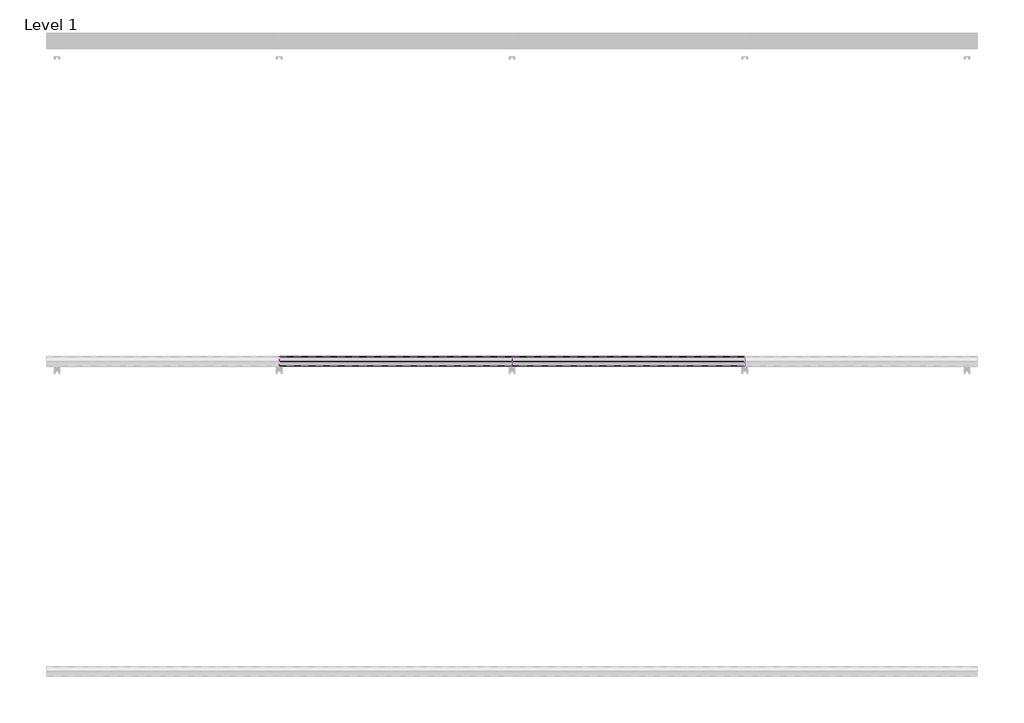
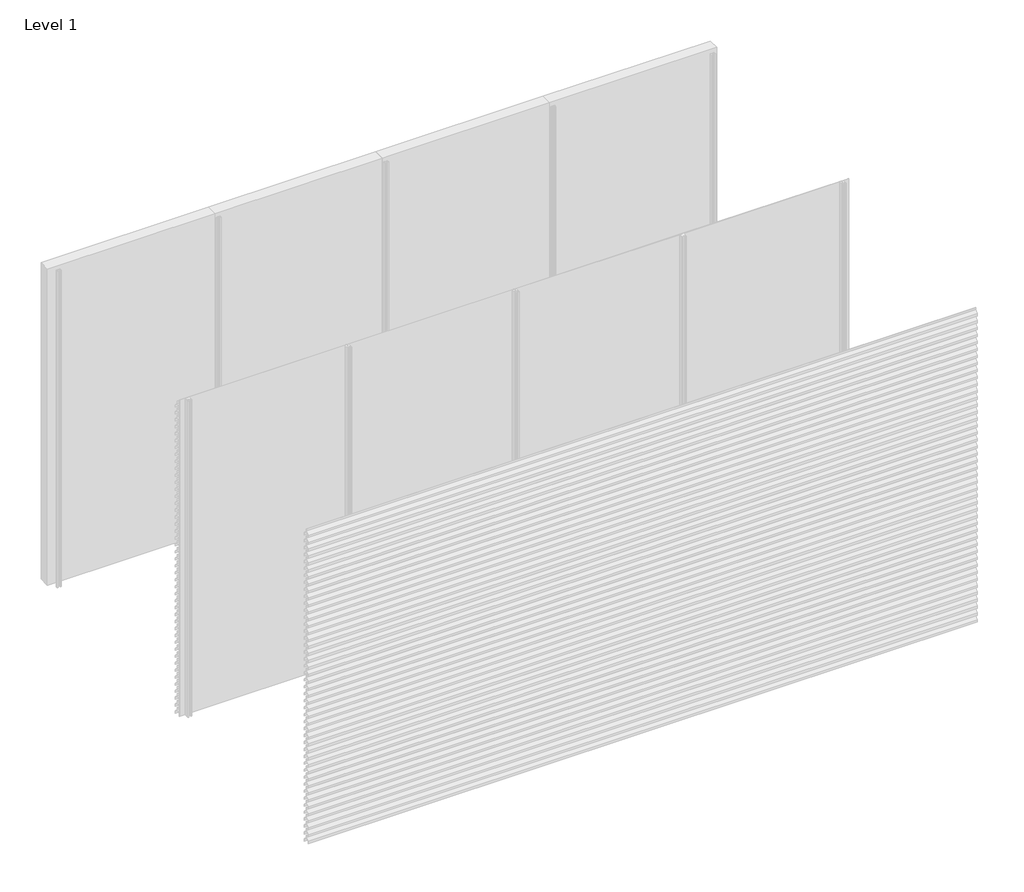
# One storey, part 27 of 35: 69 proxies.
"""IFC4 building model written with IfcOpenShell, lengths in millimetres."""

import ifcopenshell
import ifcopenshell.guid

model = None  # the IFC model being written
_history = None  # IfcOwnerHistory: only IFC2X3 demands one
_inside = {}  # id of a spatial element -> (the spatial element, [elements in it])
_under = {}  # id of a project, library or spatial element -> (it, [spatial elements below it])
_declared = {}  # id of a project -> (the project, [libraries it declares])
_typed = {}  # id of a type object -> (the type object, [elements of that type])
_made_of = {}  # id of a material, layer set ... -> (it, [elements and type objects made of it])


def new_model(schema):
    """Start an empty IFC model of exactly this schema.

    Asked for "IFC4X3", IfcOpenShell would pick the latest addendum, in which some entities
    have other attributes; the version numbers below select the first issue.
    IFC2X3 requires an IfcOwnerHistory on every rooted entity: one is made here for all.
    """
    global model, _history
    if schema == "IFC4X3":
        model = ifcopenshell.file(schema_version=(4, 3, 0, 0))
    else:
        model = ifcopenshell.file(schema=schema)
    _inside.clear()
    _under.clear()
    _declared.clear()
    _typed.clear()
    _made_of.clear()
    _history = None
    if model.schema == "IFC2X3":
        org = make("IfcOrganization", Name="unknown")
        user = make(
            "IfcPersonAndOrganization",
            ThePerson=make("IfcPerson", FamilyName="unknown"),
            TheOrganization=org,
        )
        app = make(
            "IfcApplication",
            ApplicationDeveloper=org,
            Version="unknown",
            ApplicationFullName="unknown",
            ApplicationIdentifier="unknown",
        )
        _history = make(
            "IfcOwnerHistory",
            OwningUser=user,
            OwningApplication=app,
            ChangeAction="ADDED",
            CreationDate=0,
        )
    return model


def make(cls, **values):
    """One entity of the class cls with the attributes given. An attribute that is None is left unset."""
    return model.create_entity(
        cls, **{name: value for name, value in values.items() if value is not None}
    )


def rooted(cls, **values):
    """An entity with a GlobalId (a new one), such as an element, a storey or a relation."""
    return make(cls, GlobalId=ifcopenshell.guid.new(), OwnerHistory=_history, **values)


def si_unit(unit_type, name, prefix=None):
    """IfcSIUnit, for example si_unit("LENGTHUNIT", "METRE", prefix="MILLI")."""
    return make("IfcSIUnit", UnitType=unit_type, Prefix=prefix, Name=name)


def assignment(units):
    """IfcUnitAssignment: the units of a project."""
    return None if units is None else make("IfcUnitAssignment", Units=units)


def point(xyz):
    """IfcCartesianPoint."""
    return None if xyz is None else make("IfcCartesianPoint", Coordinates=xyz)


def direction(xyz):
    """IfcDirection."""
    return None if xyz is None else make("IfcDirection", DirectionRatios=xyz)


def frame(location, z_axis=None, x_axis=None):
    """IfcAxis2Placement3D, a coordinate frame: its origin and axes. An axis left out is left unset."""
    return make(
        "IfcAxis2Placement3D",
        Location=point(location),
        Axis=direction(z_axis),
        RefDirection=direction(x_axis),
    )


def origin():
    """The frame at (0, 0, 0) with its axes left unset."""
    return frame((0.0, 0.0, 0.0))


def place(relative_to, where):
    """IfcLocalPlacement: puts the frame where relative to a parent placement (None: the world)."""
    return make(
        "IfcLocalPlacement", PlacementRelTo=relative_to, RelativePlacement=where
    )


def context(
    kind, dimensions, precision=None, world=None, true_north=None, identifier=None
):
    """IfcGeometricRepresentationContext, for example the 3D "Model" context."""
    return make(
        "IfcGeometricRepresentationContext",
        ContextIdentifier=identifier,
        ContextType=kind,
        CoordinateSpaceDimension=dimensions,
        Precision=precision,
        WorldCoordinateSystem=world,
        TrueNorth=true_north,
    )


def project(units=None, contexts=None):
    """IfcProject with its units and contexts."""
    return rooted(
        "IfcProject",
        Name="project",
        RepresentationContexts=contexts,
        UnitsInContext=assignment(units),
    )


def spatial(cls, under=None, at=None, **own):
    """A site, building, storey or space (cls), placed at a placement, below another one or the project."""
    s = rooted(cls, ObjectPlacement=at, **own)
    if under is not None:
        _under.setdefault(under.id(), (under, []))[1].append(s)
    return s


def polyline(points):
    """IfcPolyline through the points."""
    return make("IfcPolyline", Points=[point(p) for p in points])


def outline(outer, holes=None, kind="AREA"):
    """IfcArbitraryClosedProfileDef: a profile drawn as a closed curve; with holes, ...WithVoids."""
    if holes is None:
        return make("IfcArbitraryClosedProfileDef", ProfileType=kind, OuterCurve=outer)
    return make(
        "IfcArbitraryProfileDefWithVoids",
        ProfileType=kind,
        OuterCurve=outer,
        InnerCurves=holes,
    )


def extrude(swept, where, along, depth):
    """IfcExtrudedAreaSolid: the profile swept, set in the frame where, extruded along a direction by depth."""
    return make(
        "IfcExtrudedAreaSolid",
        SweptArea=swept,
        Position=where,
        ExtrudedDirection=direction(along),
        Depth=depth,
    )


def shape(context_of_items, identifier, shape_type, items):
    """IfcShapeRepresentation: the items that make up one representation, for example the "Body"."""
    return make(
        "IfcShapeRepresentation",
        ContextOfItems=context_of_items,
        RepresentationIdentifier=identifier,
        RepresentationType=shape_type,
        Items=items,
    )


def made_of(thing, what):
    """Note that an element or type object is made of a material, layer set ...; save() writes the relation."""
    if what is not None:
        _made_of.setdefault(what.id(), (what, []))[1].append(thing)
    return thing


def element(
    cls,
    number,
    at=None,
    inside=None,
    cuts=None,
    type_object=None,
    material=None,
    context=None,
    identifier="Body",
    shape_type=None,
    held_by="IfcProductDefinitionShape",
    body=None,
    shapes=None,
    **own,
):
    """One element of the class cls, such as IfcWall. Its Tag is "e" and its number.

    at: its placement. inside: the storey or other place that contains it. cuts: it is an
    opening in that element (IfcRelVoidsElement). A single representation is given by context,
    identifier, shape_type and body (its items); several are given by shapes. held_by: the class
    of the entity that holds the representations. save() writes the other relations.
    """
    e = rooted(cls, Tag="e%d" % number, ObjectPlacement=at, **own)
    if body is not None:
        shapes = [shape(context, identifier, shape_type, body)]
    if shapes is not None:
        e.Representation = make(held_by, Representations=shapes)
    if inside is not None:
        _inside.setdefault(inside.id(), (inside, []))[1].append(e)
    if cuts is not None:
        rooted(
            "IfcRelVoidsElement", RelatingBuildingElement=cuts, RelatedOpeningElement=e
        )
    if type_object is not None:
        _typed.setdefault(type_object.id(), (type_object, []))[1].append(e)
    return made_of(e, material)


def aggregate(whole, parts):
    """IfcRelAggregates: a whole, such as a stair, and the parts it consists of."""
    return rooted("IfcRelAggregates", RelatingObject=whole, RelatedObjects=parts)


def save(model, path):
    """Write the relations noted so far, then the file.

    IfcRelAggregates (storeys below a building ...), IfcRelContainedInSpatialStructure (elements
    in a storey), IfcRelDefinesByType, IfcRelAssociatesMaterial and IfcRelDeclares: one each for
    every whole, place, type object, material and project.
    """
    for whole, parts in _under.values():
        aggregate(whole, parts)
    for where, things in _inside.values():
        rooted(
            "IfcRelContainedInSpatialStructure",
            RelatedElements=things,
            RelatingStructure=where,
        )
    for kind, things in _typed.values():
        rooted("IfcRelDefinesByType", RelatedObjects=things, RelatingType=kind)
    for what, things in _made_of.values():
        rooted("IfcRelAssociatesMaterial", RelatedObjects=things, RelatingMaterial=what)
    for by, libraries in _declared.values():
        rooted("IfcRelDeclares", RelatingContext=by, RelatedDefinitions=libraries)
    model.write(path)


model = new_model("IFC4")

# Units and contexts
model_context = context("Model", 3, world=origin())
ifc_project = project(units=[si_unit("LENGTHUNIT", "METRE", prefix="MILLI")], contexts=[model_context])

# Site, building, storey
site = spatial("IfcSite", under=ifc_project)
building = spatial("IfcBuilding", under=site)
storey = spatial("IfcBuildingStorey", under=building, Name="Level 1", Elevation=0.0)

# Proxies
placement = place(None, origin())
element("IfcBuildingElementProxy", 1, Name="Wall Sweeps", at=placement, inside=storey, context=model_context, shape_type="SweptSolid", body=[
    extrude(outline(polyline([(-11936.0, 2190.0), (-11936.0, 2170.0), (-11937.25, 2170.0), (-11937.25, 2189.4342979), (-11968.1138939, 2222.531772), (-11996.7, 2202.4392868), (-11996.7, 2183.6629874), (-11998.0, 2182.8506572), (-11998.0, 2203.1145472), (-11968.537525, 2223.823011), (-11968.537525, 2244.0), (-11967.1772624, 2244.0), (-11967.1772624, 2223.4335207), (-11936.0, 2190.0)])), frame((1500.0, 0.0, 0.0), z_axis=(1.0, 0.0, 0.0), x_axis=(0.0, 1.0, 0.0)), (0.0, 0.0, 1.0), 1500.0),
])
element("IfcBuildingElementProxy", 2, Name="Wall Sweeps", at=placement, inside=storey, context=model_context, shape_type="SweptSolid", body=[
    extrude(outline(polyline([(-11936.0, 2124.0), (-11936.0, 2104.0), (-11937.25, 2104.0), (-11937.25, 2123.4342979), (-11968.1138939, 2156.531772), (-11996.7, 2136.4392868), (-11996.7, 2117.6629874), (-11998.0, 2116.8506572), (-11998.0, 2137.1145472), (-11968.537525, 2157.823011), (-11968.537525, 2178.0), (-11967.1772624, 2178.0), (-11967.1772624, 2157.4335207), (-11936.0, 2124.0)])), frame((1500.0, 0.0, 0.0), z_axis=(1.0, 0.0, 0.0), x_axis=(0.0, 1.0, 0.0)), (0.0, 0.0, 1.0), 1500.0),
])
element("IfcBuildingElementProxy", 3, Name="Wall Sweeps", at=placement, inside=storey, context=model_context, shape_type="SweptSolid", body=[
    extrude(outline(polyline([(-11936.0, 2058.0), (-11936.0, 2038.0), (-11937.25, 2038.0), (-11937.25, 2057.4342979), (-11968.1138939, 2090.531772), (-11996.7, 2070.4392868), (-11996.7, 2051.6629874), (-11998.0, 2050.8506572), (-11998.0, 2071.1145472), (-11968.537525, 2091.823011), (-11968.537525, 2112.0), (-11967.1772624, 2112.0), (-11967.1772624, 2091.4335207), (-11936.0, 2058.0)])), frame((1500.0, 0.0, 0.0), z_axis=(1.0, 0.0, 0.0), x_axis=(0.0, 1.0, 0.0)), (0.0, 0.0, 1.0), 1500.0),
])
element("IfcBuildingElementProxy", 4, Name="Wall Sweeps", at=placement, inside=storey, context=model_context, shape_type="SweptSolid", body=[
    extrude(outline(polyline([(-11936.0, 1992.0), (-11936.0, 1972.0), (-11937.25, 1972.0), (-11937.25, 1991.4342979), (-11968.1138939, 2024.531772), (-11996.7, 2004.4392868), (-11996.7, 1985.6629874), (-11998.0, 1984.8506572), (-11998.0, 2005.1145472), (-11968.537525, 2025.823011), (-11968.537525, 2046.0), (-11967.1772624, 2046.0), (-11967.1772624, 2025.4335207), (-11936.0, 1992.0)])), frame((1500.0, 0.0, 0.0), z_axis=(1.0, 0.0, 0.0), x_axis=(0.0, 1.0, 0.0)), (0.0, 0.0, 1.0), 1500.0),
])
element("IfcBuildingElementProxy", 5, Name="Wall Sweeps", at=placement, inside=storey, context=model_context, shape_type="SweptSolid", body=[
    extrude(outline(polyline([(-11936.0, 1926.0), (-11936.0, 1906.0), (-11937.25, 1906.0), (-11937.25, 1925.4342979), (-11968.1138939, 1958.531772), (-11996.7, 1938.4392868), (-11996.7, 1919.6629874), (-11998.0, 1918.8506572), (-11998.0, 1939.1145472), (-11968.537525, 1959.823011), (-11968.537525, 1980.0), (-11967.1772624, 1980.0), (-11967.1772624, 1959.4335207), (-11936.0, 1926.0)])), frame((1500.0, 0.0, 0.0), z_axis=(1.0, 0.0, 0.0), x_axis=(0.0, 1.0, 0.0)), (0.0, 0.0, 1.0), 1500.0),
])
element("IfcBuildingElementProxy", 6, Name="Wall Sweeps", at=placement, inside=storey, context=model_context, shape_type="SweptSolid", body=[
    extrude(outline(polyline([(-11936.0, 1860.0), (-11936.0, 1840.0), (-11937.25, 1840.0), (-11937.25, 1859.4342979), (-11968.1138939, 1892.531772), (-11996.7, 1872.4392868), (-11996.7, 1853.6629874), (-11998.0, 1852.8506572), (-11998.0, 1873.1145472), (-11968.537525, 1893.823011), (-11968.537525, 1914.0), (-11967.1772624, 1914.0), (-11967.1772624, 1893.4335207), (-11936.0, 1860.0)])), frame((1500.0, 0.0, 0.0), z_axis=(1.0, 0.0, 0.0), x_axis=(0.0, 1.0, 0.0)), (0.0, 0.0, 1.0), 1500.0),
])
element("IfcBuildingElementProxy", 7, Name="Wall Sweeps", at=placement, inside=storey, context=model_context, shape_type="SweptSolid", body=[
    extrude(outline(polyline([(-11936.0, 1794.0), (-11936.0, 1774.0), (-11937.25, 1774.0), (-11937.25, 1793.4342979), (-11968.1138939, 1826.531772), (-11996.7, 1806.4392868), (-11996.7, 1787.6629874), (-11998.0, 1786.8506572), (-11998.0, 1807.1145472), (-11968.537525, 1827.823011), (-11968.537525, 1848.0), (-11967.1772624, 1848.0), (-11967.1772624, 1827.4335207), (-11936.0, 1794.0)])), frame((1500.0, 0.0, 0.0), z_axis=(1.0, 0.0, 0.0), x_axis=(0.0, 1.0, 0.0)), (0.0, 0.0, 1.0), 1500.0),
])
element("IfcBuildingElementProxy", 8, Name="Wall Sweeps", at=placement, inside=storey, context=model_context, shape_type="SweptSolid", body=[
    extrude(outline(polyline([(-11936.0, 1728.0), (-11936.0, 1708.0), (-11937.25, 1708.0), (-11937.25, 1727.4342979), (-11968.1138939, 1760.531772), (-11996.7, 1740.4392868), (-11996.7, 1721.6629874), (-11998.0, 1720.8506572), (-11998.0, 1741.1145472), (-11968.537525, 1761.823011), (-11968.537525, 1782.0), (-11967.1772624, 1782.0), (-11967.1772624, 1761.4335207), (-11936.0, 1728.0)])), frame((1500.0, 0.0, 0.0), z_axis=(1.0, 0.0, 0.0), x_axis=(0.0, 1.0, 0.0)), (0.0, 0.0, 1.0), 1500.0),
])
element("IfcBuildingElementProxy", 9, Name="Wall Sweeps", at=placement, inside=storey, context=model_context, shape_type="SweptSolid", body=[
    extrude(outline(polyline([(-11936.0, 1662.0), (-11936.0, 1642.0), (-11937.25, 1642.0), (-11937.25, 1661.4342979), (-11968.1138939, 1694.531772), (-11996.7, 1674.4392868), (-11996.7, 1655.6629874), (-11998.0, 1654.8506572), (-11998.0, 1675.1145472), (-11968.537525, 1695.823011), (-11968.537525, 1716.0), (-11967.1772624, 1716.0), (-11967.1772624, 1695.4335207), (-11936.0, 1662.0)])), frame((1500.0, 0.0, 0.0), z_axis=(1.0, 0.0, 0.0), x_axis=(0.0, 1.0, 0.0)), (0.0, 0.0, 1.0), 1500.0),
])
element("IfcBuildingElementProxy", 10, Name="Wall Sweeps", at=placement, inside=storey, context=model_context, shape_type="SweptSolid", body=[
    extrude(outline(polyline([(-11936.0, 1596.0), (-11936.0, 1576.0), (-11937.25, 1576.0), (-11937.25, 1595.4342979), (-11968.1138939, 1628.531772), (-11996.7, 1608.4392868), (-11996.7, 1589.6629874), (-11998.0, 1588.8506572), (-11998.0, 1609.1145472), (-11968.537525, 1629.823011), (-11968.537525, 1650.0), (-11967.1772624, 1650.0), (-11967.1772624, 1629.4335207), (-11936.0, 1596.0)])), frame((1500.0, 0.0, 0.0), z_axis=(1.0, 0.0, 0.0), x_axis=(0.0, 1.0, 0.0)), (0.0, 0.0, 1.0), 1500.0),
])
element("IfcBuildingElementProxy", 11, Name="Wall Sweeps", at=placement, inside=storey, context=model_context, shape_type="SweptSolid", body=[
    extrude(outline(polyline([(-11936.0, 1530.0), (-11936.0, 1510.0), (-11937.25, 1510.0), (-11937.25, 1529.4342979), (-11968.1138939, 1562.531772), (-11996.7, 1542.4392868), (-11996.7, 1523.6629874), (-11998.0, 1522.8506572), (-11998.0, 1543.1145472), (-11968.537525, 1563.823011), (-11968.537525, 1584.0), (-11967.1772624, 1584.0), (-11967.1772624, 1563.4335207), (-11936.0, 1530.0)])), frame((1500.0, 0.0, 0.0), z_axis=(1.0, 0.0, 0.0), x_axis=(0.0, 1.0, 0.0)), (0.0, 0.0, 1.0), 1500.0),
])
element("IfcBuildingElementProxy", 12, Name="Wall Sweeps", at=placement, inside=storey, context=model_context, shape_type="SweptSolid", body=[
    extrude(outline(polyline([(-11936.0, 1464.0), (-11936.0, 1444.0), (-11937.25, 1444.0), (-11937.25, 1463.4342979), (-11968.1138939, 1496.531772), (-11996.7, 1476.4392868), (-11996.7, 1457.6629874), (-11998.0, 1456.8506572), (-11998.0, 1477.1145472), (-11968.537525, 1497.823011), (-11968.537525, 1518.0), (-11967.1772624, 1518.0), (-11967.1772624, 1497.4335207), (-11936.0, 1464.0)])), frame((1500.0, 0.0, 0.0), z_axis=(1.0, 0.0, 0.0), x_axis=(0.0, 1.0, 0.0)), (0.0, 0.0, 1.0), 1500.0),
])
element("IfcBuildingElementProxy", 13, Name="Wall Sweeps", at=placement, inside=storey, context=model_context, shape_type="SweptSolid", body=[
    extrude(outline(polyline([(-11936.0, 1398.0), (-11936.0, 1378.0), (-11937.25, 1378.0), (-11937.25, 1397.4342979), (-11968.1138939, 1430.531772), (-11996.7, 1410.4392868), (-11996.7, 1391.6629874), (-11998.0, 1390.8506572), (-11998.0, 1411.1145472), (-11968.537525, 1431.823011), (-11968.537525, 1452.0), (-11967.1772624, 1452.0), (-11967.1772624, 1431.4335207), (-11936.0, 1398.0)])), frame((1500.0, 0.0, 0.0), z_axis=(1.0, 0.0, 0.0), x_axis=(0.0, 1.0, 0.0)), (0.0, 0.0, 1.0), 1500.0),
])
element("IfcBuildingElementProxy", 14, Name="Wall Sweeps", at=placement, inside=storey, context=model_context, shape_type="SweptSolid", body=[
    extrude(outline(polyline([(-11936.0, 1332.0), (-11936.0, 1312.0), (-11937.25, 1312.0), (-11937.25, 1331.4342979), (-11968.1138939, 1364.531772), (-11996.7, 1344.4392868), (-11996.7, 1325.6629874), (-11998.0, 1324.8506572), (-11998.0, 1345.1145472), (-11968.537525, 1365.823011), (-11968.537525, 1386.0), (-11967.1772624, 1386.0), (-11967.1772624, 1365.4335207), (-11936.0, 1332.0)])), frame((1500.0, 0.0, 0.0), z_axis=(1.0, 0.0, 0.0), x_axis=(0.0, 1.0, 0.0)), (0.0, 0.0, 1.0), 1500.0),
])
element("IfcBuildingElementProxy", 15, Name="Wall Sweeps", at=placement, inside=storey, context=model_context, shape_type="SweptSolid", body=[
    extrude(outline(polyline([(-11936.0, 1266.0), (-11936.0, 1246.0), (-11937.25, 1246.0), (-11937.25, 1265.4342979), (-11968.1138939, 1298.531772), (-11996.7, 1278.4392868), (-11996.7, 1259.6629874), (-11998.0, 1258.8506572), (-11998.0, 1279.1145472), (-11968.537525, 1299.823011), (-11968.537525, 1320.0), (-11967.1772624, 1320.0), (-11967.1772624, 1299.4335207), (-11936.0, 1266.0)])), frame((1500.0, 0.0, 0.0), z_axis=(1.0, 0.0, 0.0), x_axis=(0.0, 1.0, 0.0)), (0.0, 0.0, 1.0), 1500.0),
])
element("IfcBuildingElementProxy", 16, Name="Wall Sweeps", at=placement, inside=storey, context=model_context, shape_type="SweptSolid", body=[
    extrude(outline(polyline([(-11936.0, 1200.0), (-11936.0, 1180.0), (-11937.25, 1180.0), (-11937.25, 1199.4342979), (-11968.1138939, 1232.531772), (-11996.7, 1212.4392868), (-11996.7, 1193.6629874), (-11998.0, 1192.8506572), (-11998.0, 1213.1145472), (-11968.537525, 1233.823011), (-11968.537525, 1254.0), (-11967.1772624, 1254.0), (-11967.1772624, 1233.4335207), (-11936.0, 1200.0)])), frame((1500.0, 0.0, 0.0), z_axis=(1.0, 0.0, 0.0), x_axis=(0.0, 1.0, 0.0)), (0.0, 0.0, 1.0), 1500.0),
])
element("IfcBuildingElementProxy", 17, Name="Wall Sweeps", at=placement, inside=storey, context=model_context, shape_type="SweptSolid", body=[
    extrude(outline(polyline([(-11936.0, 1134.0), (-11936.0, 1114.0), (-11937.25, 1114.0), (-11937.25, 1133.4342979), (-11968.1138939, 1166.531772), (-11996.7, 1146.4392868), (-11996.7, 1127.6629874), (-11998.0, 1126.8506572), (-11998.0, 1147.1145472), (-11968.537525, 1167.823011), (-11968.537525, 1188.0), (-11967.1772624, 1188.0), (-11967.1772624, 1167.4335207), (-11936.0, 1134.0)])), frame((1500.0, 0.0, 0.0), z_axis=(1.0, 0.0, 0.0), x_axis=(0.0, 1.0, 0.0)), (0.0, 0.0, 1.0), 1500.0),
])
element("IfcBuildingElementProxy", 18, Name="Wall Sweeps", at=placement, inside=storey, context=model_context, shape_type="SweptSolid", body=[
    extrude(outline(polyline([(-11936.0, 1068.0), (-11936.0, 1048.0), (-11937.25, 1048.0), (-11937.25, 1067.4342979), (-11968.1138939, 1100.531772), (-11996.7, 1080.4392868), (-11996.7, 1061.6629874), (-11998.0, 1060.8506572), (-11998.0, 1081.1145472), (-11968.537525, 1101.823011), (-11968.537525, 1122.0), (-11967.1772624, 1122.0), (-11967.1772624, 1101.4335207), (-11936.0, 1068.0)])), frame((1500.0, 0.0, 0.0), z_axis=(1.0, 0.0, 0.0), x_axis=(0.0, 1.0, 0.0)), (0.0, 0.0, 1.0), 1500.0),
])
element("IfcBuildingElementProxy", 19, Name="Wall Sweeps", at=placement, inside=storey, context=model_context, shape_type="SweptSolid", body=[
    extrude(outline(polyline([(-11936.0, 1002.0), (-11936.0, 982.0), (-11937.25, 982.0), (-11937.25, 1001.4342979), (-11968.1138939, 1034.531772), (-11996.7, 1014.4392868), (-11996.7, 995.6629874), (-11998.0, 994.8506572), (-11998.0, 1015.1145472), (-11968.537525, 1035.823011), (-11968.537525, 1056.0), (-11967.1772624, 1056.0), (-11967.1772624, 1035.4335207), (-11936.0, 1002.0)])), frame((1500.0, 0.0, 0.0), z_axis=(1.0, 0.0, 0.0), x_axis=(0.0, 1.0, 0.0)), (0.0, 0.0, 1.0), 1500.0),
])
element("IfcBuildingElementProxy", 20, Name="Wall Sweeps", at=placement, inside=storey, context=model_context, shape_type="SweptSolid", body=[
    extrude(outline(polyline([(-11936.0, 936.0), (-11936.0, 916.0), (-11937.25, 916.0), (-11937.25, 935.4342979), (-11968.1138939, 968.531772), (-11996.7, 948.4392868), (-11996.7, 929.6629874), (-11998.0, 928.8506572), (-11998.0, 949.1145472), (-11968.537525, 969.823011), (-11968.537525, 990.0), (-11967.1772624, 990.0), (-11967.1772624, 969.4335207), (-11936.0, 936.0)])), frame((1500.0, 0.0, 0.0), z_axis=(1.0, 0.0, 0.0), x_axis=(0.0, 1.0, 0.0)), (0.0, 0.0, 1.0), 1500.0),
])
element("IfcBuildingElementProxy", 21, Name="Wall Sweeps", at=placement, inside=storey, context=model_context, shape_type="SweptSolid", body=[
    extrude(outline(polyline([(-11936.0, 870.0), (-11936.0, 850.0), (-11937.25, 850.0), (-11937.25, 869.4342979), (-11968.1138939, 902.531772), (-11996.7, 882.4392868), (-11996.7, 863.6629874), (-11998.0, 862.8506572), (-11998.0, 883.1145472), (-11968.537525, 903.823011), (-11968.537525, 924.0), (-11967.1772624, 924.0), (-11967.1772624, 903.4335207), (-11936.0, 870.0)])), frame((1500.0, 0.0, 0.0), z_axis=(1.0, 0.0, 0.0), x_axis=(0.0, 1.0, 0.0)), (0.0, 0.0, 1.0), 1500.0),
])
element("IfcBuildingElementProxy", 22, Name="Wall Sweeps", at=placement, inside=storey, context=model_context, shape_type="SweptSolid", body=[
    extrude(outline(polyline([(-11936.0, 804.0), (-11936.0, 784.0), (-11937.25, 784.0), (-11937.25, 803.4342979), (-11968.1138939, 836.531772), (-11996.7, 816.4392868), (-11996.7, 797.6629874), (-11998.0, 796.8506572), (-11998.0, 817.1145472), (-11968.537525, 837.823011), (-11968.537525, 858.0), (-11967.1772624, 858.0), (-11967.1772624, 837.4335207), (-11936.0, 804.0)])), frame((1500.0, 0.0, 0.0), z_axis=(1.0, 0.0, 0.0), x_axis=(0.0, 1.0, 0.0)), (0.0, 0.0, 1.0), 1500.0),
])
element("IfcBuildingElementProxy", 23, Name="Wall Sweeps", at=placement, inside=storey, context=model_context, shape_type="SweptSolid", body=[
    extrude(outline(polyline([(-11936.0, 738.0), (-11936.0, 718.0), (-11937.25, 718.0), (-11937.25, 737.4342979), (-11968.1138939, 770.531772), (-11996.7, 750.4392868), (-11996.7, 731.6629874), (-11998.0, 730.8506572), (-11998.0, 751.1145472), (-11968.537525, 771.823011), (-11968.537525, 792.0), (-11967.1772624, 792.0), (-11967.1772624, 771.4335207), (-11936.0, 738.0)])), frame((1500.0, 0.0, 0.0), z_axis=(1.0, 0.0, 0.0), x_axis=(0.0, 1.0, 0.0)), (0.0, 0.0, 1.0), 1500.0),
])
element("IfcBuildingElementProxy", 24, Name="Wall Sweeps", at=placement, inside=storey, context=model_context, shape_type="SweptSolid", body=[
    extrude(outline(polyline([(-11936.0, 672.0), (-11936.0, 652.0), (-11937.25, 652.0), (-11937.25, 671.4342979), (-11968.1138939, 704.531772), (-11996.7, 684.4392868), (-11996.7, 665.6629874), (-11998.0, 664.8506572), (-11998.0, 685.1145472), (-11968.537525, 705.823011), (-11968.537525, 726.0), (-11967.1772624, 726.0), (-11967.1772624, 705.4335207), (-11936.0, 672.0)])), frame((1500.0, 0.0, 0.0), z_axis=(1.0, 0.0, 0.0), x_axis=(0.0, 1.0, 0.0)), (0.0, 0.0, 1.0), 1500.0),
])
element("IfcBuildingElementProxy", 25, Name="Wall Sweeps", at=placement, inside=storey, context=model_context, shape_type="SweptSolid", body=[
    extrude(outline(polyline([(-11936.0, 606.0), (-11936.0, 586.0), (-11937.25, 586.0), (-11937.25, 605.4342979), (-11968.1138939, 638.531772), (-11996.7, 618.4392868), (-11996.7, 599.6629874), (-11998.0, 598.8506572), (-11998.0, 619.1145472), (-11968.537525, 639.823011), (-11968.537525, 660.0), (-11967.1772624, 660.0), (-11967.1772624, 639.4335207), (-11936.0, 606.0)])), frame((1500.0, 0.0, 0.0), z_axis=(1.0, 0.0, 0.0), x_axis=(0.0, 1.0, 0.0)), (0.0, 0.0, 1.0), 1500.0),
])
element("IfcBuildingElementProxy", 26, Name="Wall Sweeps", at=placement, inside=storey, context=model_context, shape_type="SweptSolid", body=[
    extrude(outline(polyline([(-11936.0, 540.0), (-11936.0, 520.0), (-11937.25, 520.0), (-11937.25, 539.4342979), (-11968.1138939, 572.531772), (-11996.7, 552.4392868), (-11996.7, 533.6629874), (-11998.0, 532.8506572), (-11998.0, 553.1145472), (-11968.537525, 573.823011), (-11968.537525, 594.0), (-11967.1772624, 594.0), (-11967.1772624, 573.4335207), (-11936.0, 540.0)])), frame((1500.0, 0.0, 0.0), z_axis=(1.0, 0.0, 0.0), x_axis=(0.0, 1.0, 0.0)), (0.0, 0.0, 1.0), 1500.0),
])
element("IfcBuildingElementProxy", 27, Name="Wall Sweeps", at=placement, inside=storey, context=model_context, shape_type="SweptSolid", body=[
    extrude(outline(polyline([(-11936.0, 474.0), (-11936.0, 454.0), (-11937.25, 454.0), (-11937.25, 473.4342979), (-11968.1138939, 506.531772), (-11996.7, 486.4392868), (-11996.7, 467.6629874), (-11998.0, 466.8506572), (-11998.0, 487.1145472), (-11968.537525, 507.823011), (-11968.537525, 528.0), (-11967.1772624, 528.0), (-11967.1772624, 507.4335207), (-11936.0, 474.0)])), frame((1500.0, 0.0, 0.0), z_axis=(1.0, 0.0, 0.0), x_axis=(0.0, 1.0, 0.0)), (0.0, 0.0, 1.0), 1500.0),
])
element("IfcBuildingElementProxy", 28, Name="Wall Sweeps", at=placement, inside=storey, context=model_context, shape_type="SweptSolid", body=[
    extrude(outline(polyline([(-11936.0, 408.0), (-11936.0, 388.0), (-11937.25, 388.0), (-11937.25, 407.4342979), (-11968.1138939, 440.531772), (-11996.7, 420.4392868), (-11996.7, 401.6629874), (-11998.0, 400.8506572), (-11998.0, 421.1145472), (-11968.537525, 441.823011), (-11968.537525, 462.0), (-11967.1772624, 462.0), (-11967.1772624, 441.4335207), (-11936.0, 408.0)])), frame((1500.0, 0.0, 0.0), z_axis=(1.0, 0.0, 0.0), x_axis=(0.0, 1.0, 0.0)), (0.0, 0.0, 1.0), 1500.0),
])
element("IfcBuildingElementProxy", 29, Name="Wall Sweeps", at=placement, inside=storey, context=model_context, shape_type="SweptSolid", body=[
    extrude(outline(polyline([(-11936.0, 342.0), (-11936.0, 322.0), (-11937.25, 322.0), (-11937.25, 341.4342979), (-11968.1138939, 374.531772), (-11996.7, 354.4392868), (-11996.7, 335.6629874), (-11998.0, 334.8506572), (-11998.0, 355.1145472), (-11968.537525, 375.823011), (-11968.537525, 396.0), (-11967.1772624, 396.0), (-11967.1772624, 375.4335207), (-11936.0, 342.0)])), frame((1500.0, 0.0, 0.0), z_axis=(1.0, 0.0, 0.0), x_axis=(0.0, 1.0, 0.0)), (0.0, 0.0, 1.0), 1500.0),
])
element("IfcBuildingElementProxy", 30, Name="Wall Sweeps", at=placement, inside=storey, context=model_context, shape_type="SweptSolid", body=[
    extrude(outline(polyline([(-11936.0, 276.0), (-11936.0, 256.0), (-11937.25, 256.0), (-11937.25, 275.4342979), (-11968.1138939, 308.531772), (-11996.7, 288.4392868), (-11996.7, 269.6629874), (-11998.0, 268.8506572), (-11998.0, 289.1145472), (-11968.537525, 309.823011), (-11968.537525, 330.0), (-11967.1772624, 330.0), (-11967.1772624, 309.4335207), (-11936.0, 276.0)])), frame((1500.0, 0.0, 0.0), z_axis=(1.0, 0.0, 0.0), x_axis=(0.0, 1.0, 0.0)), (0.0, 0.0, 1.0), 1500.0),
])
element("IfcBuildingElementProxy", 31, Name="Wall Sweeps", at=placement, inside=storey, context=model_context, shape_type="SweptSolid", body=[
    extrude(outline(polyline([(-11936.0, 210.0), (-11936.0, 190.0), (-11937.25, 190.0), (-11937.25, 209.4342979), (-11968.1138939, 242.531772), (-11996.7, 222.4392868), (-11996.7, 203.6629874), (-11998.0, 202.8506572), (-11998.0, 223.1145472), (-11968.537525, 243.823011), (-11968.537525, 264.0), (-11967.1772624, 264.0), (-11967.1772624, 243.4335207), (-11936.0, 210.0)])), frame((1500.0, 0.0, 0.0), z_axis=(1.0, 0.0, 0.0), x_axis=(0.0, 1.0, 0.0)), (0.0, 0.0, 1.0), 1500.0),
])
element("IfcBuildingElementProxy", 32, Name="Wall Sweeps", at=placement, inside=storey, context=model_context, shape_type="SweptSolid", body=[
    extrude(outline(polyline([(-11936.0, 144.0), (-11936.0, 124.0), (-11937.25, 124.0), (-11937.25, 143.4342979), (-11968.1138939, 176.531772), (-11996.7, 156.4392868), (-11996.7, 137.6629874), (-11998.0, 136.8506572), (-11998.0, 157.1145472), (-11968.537525, 177.823011), (-11968.537525, 198.0), (-11967.1772624, 198.0), (-11967.1772624, 177.4335207), (-11936.0, 144.0)])), frame((1500.0, 0.0, 0.0), z_axis=(1.0, 0.0, 0.0), x_axis=(0.0, 1.0, 0.0)), (0.0, 0.0, 1.0), 1500.0),
])
element("IfcBuildingElementProxy", 33, Name="Wall Sweeps", at=placement, inside=storey, context=model_context, shape_type="SweptSolid", body=[
    extrude(outline(polyline([(-11936.0, 78.0), (-11936.0, 58.0), (-11937.25, 58.0), (-11937.25, 77.4342979), (-11968.1138939, 110.531772), (-11996.7, 90.4392868), (-11996.7, 71.6629874), (-11998.0, 70.8506572), (-11998.0, 91.1145472), (-11968.537525, 111.823011), (-11968.537525, 132.0), (-11967.1772624, 132.0), (-11967.1772624, 111.4335207), (-11936.0, 78.0)])), frame((1500.0, 0.0, 0.0), z_axis=(1.0, 0.0, 0.0), x_axis=(0.0, 1.0, 0.0)), (0.0, 0.0, 1.0), 1500.0),
])
element("IfcBuildingElementProxy", 34, Name="Wall Sweeps", at=placement, inside=storey, context=model_context, shape_type="SweptSolid", body=[
    extrude(outline(polyline([(-11936.0, 12.0), (-11936.0, -8.0), (-11937.25, -8.0), (-11937.25, 11.4342979), (-11968.1138939, 44.531772), (-11996.7, 24.4392868), (-11996.7, 5.6629874), (-11998.0, 4.8506572), (-11998.0, 25.1145472), (-11968.537525, 45.823011), (-11968.537525, 66.0), (-11967.1772624, 66.0), (-11967.1772624, 45.4335207), (-11936.0, 12.0)])), frame((1500.0, 0.0, 0.0), z_axis=(1.0, 0.0, 0.0), x_axis=(0.0, 1.0, 0.0)), (0.0, 0.0, 1.0), 1500.0),
])
element("IfcBuildingElementProxy", 35, Name="Wall Sweeps", at=placement, inside=storey, context=model_context, shape_type="SweptSolid", body=[
    extrude(outline(polyline([(-11936.0, 2916.0), (-11936.0, 2896.0), (-11937.25, 2896.0), (-11937.25, 2915.4342979), (-11968.1138939, 2948.531772), (-11996.7, 2928.4392868), (-11996.7, 2909.6629874), (-11998.0, 2908.8506572), (-11998.0, 2929.1145472), (-11968.537525, 2949.823011), (-11968.537525, 2970.0), (-11967.1772624, 2970.0), (-11967.1772624, 2949.4335207), (-11936.0, 2916.0)])), frame((3000.0, 0.0, 0.0), z_axis=(1.0, 0.0, 0.0), x_axis=(0.0, 1.0, 0.0)), (0.0, 0.0, 1.0), 1500.0),
])
element("IfcBuildingElementProxy", 36, Name="Wall Sweeps", at=placement, inside=storey, context=model_context, shape_type="SweptSolid", body=[
    extrude(outline(polyline([(-11936.0, 2850.0), (-11936.0, 2830.0), (-11937.25, 2830.0), (-11937.25, 2849.4342979), (-11968.1138939, 2882.531772), (-11996.7, 2862.4392868), (-11996.7, 2843.6629874), (-11998.0, 2842.8506572), (-11998.0, 2863.1145472), (-11968.537525, 2883.823011), (-11968.537525, 2904.0), (-11967.1772624, 2904.0), (-11967.1772624, 2883.4335207), (-11936.0, 2850.0)])), frame((3000.0, 0.0, 0.0), z_axis=(1.0, 0.0, 0.0), x_axis=(0.0, 1.0, 0.0)), (0.0, 0.0, 1.0), 1500.0),
])
element("IfcBuildingElementProxy", 37, Name="Wall Sweeps", at=placement, inside=storey, context=model_context, shape_type="SweptSolid", body=[
    extrude(outline(polyline([(-11936.0, 2784.0), (-11936.0, 2764.0), (-11937.25, 2764.0), (-11937.25, 2783.4342979), (-11968.1138939, 2816.531772), (-11996.7, 2796.4392868), (-11996.7, 2777.6629874), (-11998.0, 2776.8506572), (-11998.0, 2797.1145472), (-11968.537525, 2817.823011), (-11968.537525, 2838.0), (-11967.1772624, 2838.0), (-11967.1772624, 2817.4335207), (-11936.0, 2784.0)])), frame((3000.0, 0.0, 0.0), z_axis=(1.0, 0.0, 0.0), x_axis=(0.0, 1.0, 0.0)), (0.0, 0.0, 1.0), 1500.0),
])
element("IfcBuildingElementProxy", 38, Name="Wall Sweeps", at=placement, inside=storey, context=model_context, shape_type="SweptSolid", body=[
    extrude(outline(polyline([(-11936.0, 2718.0), (-11936.0, 2698.0), (-11937.25, 2698.0), (-11937.25, 2717.4342979), (-11968.1138939, 2750.531772), (-11996.7, 2730.4392868), (-11996.7, 2711.6629874), (-11998.0, 2710.8506572), (-11998.0, 2731.1145472), (-11968.537525, 2751.823011), (-11968.537525, 2772.0), (-11967.1772624, 2772.0), (-11967.1772624, 2751.4335207), (-11936.0, 2718.0)])), frame((3000.0, 0.0, 0.0), z_axis=(1.0, 0.0, 0.0), x_axis=(0.0, 1.0, 0.0)), (0.0, 0.0, 1.0), 1500.0),
])
element("IfcBuildingElementProxy", 39, Name="Wall Sweeps", at=placement, inside=storey, context=model_context, shape_type="SweptSolid", body=[
    extrude(outline(polyline([(-11936.0, 2652.0), (-11936.0, 2632.0), (-11937.25, 2632.0), (-11937.25, 2651.4342979), (-11968.1138939, 2684.531772), (-11996.7, 2664.4392868), (-11996.7, 2645.6629874), (-11998.0, 2644.8506572), (-11998.0, 2665.1145472), (-11968.537525, 2685.823011), (-11968.537525, 2706.0), (-11967.1772624, 2706.0), (-11967.1772624, 2685.4335207), (-11936.0, 2652.0)])), frame((3000.0, 0.0, 0.0), z_axis=(1.0, 0.0, 0.0), x_axis=(0.0, 1.0, 0.0)), (0.0, 0.0, 1.0), 1500.0),
])
element("IfcBuildingElementProxy", 40, Name="Wall Sweeps", at=placement, inside=storey, context=model_context, shape_type="SweptSolid", body=[
    extrude(outline(polyline([(-11936.0, 2586.0), (-11936.0, 2566.0), (-11937.25, 2566.0), (-11937.25, 2585.4342979), (-11968.1138939, 2618.531772), (-11996.7, 2598.4392868), (-11996.7, 2579.6629874), (-11998.0, 2578.8506572), (-11998.0, 2599.1145472), (-11968.537525, 2619.823011), (-11968.537525, 2640.0), (-11967.1772624, 2640.0), (-11967.1772624, 2619.4335207), (-11936.0, 2586.0)])), frame((3000.0, 0.0, 0.0), z_axis=(1.0, 0.0, 0.0), x_axis=(0.0, 1.0, 0.0)), (0.0, 0.0, 1.0), 1500.0),
])
element("IfcBuildingElementProxy", 41, Name="Wall Sweeps", at=placement, inside=storey, context=model_context, shape_type="SweptSolid", body=[
    extrude(outline(polyline([(-11936.0, 2520.0), (-11936.0, 2500.0), (-11937.25, 2500.0), (-11937.25, 2519.4342979), (-11968.1138939, 2552.531772), (-11996.7, 2532.4392868), (-11996.7, 2513.6629874), (-11998.0, 2512.8506572), (-11998.0, 2533.1145472), (-11968.537525, 2553.823011), (-11968.537525, 2574.0), (-11967.1772624, 2574.0), (-11967.1772624, 2553.4335207), (-11936.0, 2520.0)])), frame((3000.0, 0.0, 0.0), z_axis=(1.0, 0.0, 0.0), x_axis=(0.0, 1.0, 0.0)), (0.0, 0.0, 1.0), 1500.0),
])
element("IfcBuildingElementProxy", 42, Name="Wall Sweeps", at=placement, inside=storey, context=model_context, shape_type="SweptSolid", body=[
    extrude(outline(polyline([(-11936.0, 2454.0), (-11936.0, 2434.0), (-11937.25, 2434.0), (-11937.25, 2453.4342979), (-11968.1138939, 2486.531772), (-11996.7, 2466.4392868), (-11996.7, 2447.6629874), (-11998.0, 2446.8506572), (-11998.0, 2467.1145472), (-11968.537525, 2487.823011), (-11968.537525, 2508.0), (-11967.1772624, 2508.0), (-11967.1772624, 2487.4335207), (-11936.0, 2454.0)])), frame((3000.0, 0.0, 0.0), z_axis=(1.0, 0.0, 0.0), x_axis=(0.0, 1.0, 0.0)), (0.0, 0.0, 1.0), 1500.0),
])
element("IfcBuildingElementProxy", 43, Name="Wall Sweeps", at=placement, inside=storey, context=model_context, shape_type="SweptSolid", body=[
    extrude(outline(polyline([(-11936.0, 2388.0), (-11936.0, 2368.0), (-11937.25, 2368.0), (-11937.25, 2387.4342979), (-11968.1138939, 2420.531772), (-11996.7, 2400.4392868), (-11996.7, 2381.6629874), (-11998.0, 2380.8506572), (-11998.0, 2401.1145472), (-11968.537525, 2421.823011), (-11968.537525, 2442.0), (-11967.1772624, 2442.0), (-11967.1772624, 2421.4335207), (-11936.0, 2388.0)])), frame((3000.0, 0.0, 0.0), z_axis=(1.0, 0.0, 0.0), x_axis=(0.0, 1.0, 0.0)), (0.0, 0.0, 1.0), 1500.0),
])
element("IfcBuildingElementProxy", 44, Name="Wall Sweeps", at=placement, inside=storey, context=model_context, shape_type="SweptSolid", body=[
    extrude(outline(polyline([(-11936.0, 2322.0), (-11936.0, 2302.0), (-11937.25, 2302.0), (-11937.25, 2321.4342979), (-11968.1138939, 2354.531772), (-11996.7, 2334.4392868), (-11996.7, 2315.6629874), (-11998.0, 2314.8506572), (-11998.0, 2335.1145472), (-11968.537525, 2355.823011), (-11968.537525, 2376.0), (-11967.1772624, 2376.0), (-11967.1772624, 2355.4335207), (-11936.0, 2322.0)])), frame((3000.0, 0.0, 0.0), z_axis=(1.0, 0.0, 0.0), x_axis=(0.0, 1.0, 0.0)), (0.0, 0.0, 1.0), 1500.0),
])
element("IfcBuildingElementProxy", 45, Name="Wall Sweeps", at=placement, inside=storey, context=model_context, shape_type="SweptSolid", body=[
    extrude(outline(polyline([(-11936.0, 2256.0), (-11936.0, 2236.0), (-11937.25, 2236.0), (-11937.25, 2255.4342979), (-11968.1138939, 2288.531772), (-11996.7, 2268.4392868), (-11996.7, 2249.6629874), (-11998.0, 2248.8506572), (-11998.0, 2269.1145472), (-11968.537525, 2289.823011), (-11968.537525, 2310.0), (-11967.1772624, 2310.0), (-11967.1772624, 2289.4335207), (-11936.0, 2256.0)])), frame((3000.0, 0.0, 0.0), z_axis=(1.0, 0.0, 0.0), x_axis=(0.0, 1.0, 0.0)), (0.0, 0.0, 1.0), 1500.0),
])
element("IfcBuildingElementProxy", 46, Name="Wall Sweeps", at=placement, inside=storey, context=model_context, shape_type="SweptSolid", body=[
    extrude(outline(polyline([(-11936.0, 2190.0), (-11936.0, 2170.0), (-11937.25, 2170.0), (-11937.25, 2189.4342979), (-11968.1138939, 2222.531772), (-11996.7, 2202.4392868), (-11996.7, 2183.6629874), (-11998.0, 2182.8506572), (-11998.0, 2203.1145472), (-11968.537525, 2223.823011), (-11968.537525, 2244.0), (-11967.1772624, 2244.0), (-11967.1772624, 2223.4335207), (-11936.0, 2190.0)])), frame((3000.0, 0.0, 0.0), z_axis=(1.0, 0.0, 0.0), x_axis=(0.0, 1.0, 0.0)), (0.0, 0.0, 1.0), 1500.0),
])
element("IfcBuildingElementProxy", 47, Name="Wall Sweeps", at=placement, inside=storey, context=model_context, shape_type="SweptSolid", body=[
    extrude(outline(polyline([(-11936.0, 2124.0), (-11936.0, 2104.0), (-11937.25, 2104.0), (-11937.25, 2123.4342979), (-11968.1138939, 2156.531772), (-11996.7, 2136.4392868), (-11996.7, 2117.6629874), (-11998.0, 2116.8506572), (-11998.0, 2137.1145472), (-11968.537525, 2157.823011), (-11968.537525, 2178.0), (-11967.1772624, 2178.0), (-11967.1772624, 2157.4335207), (-11936.0, 2124.0)])), frame((3000.0, 0.0, 0.0), z_axis=(1.0, 0.0, 0.0), x_axis=(0.0, 1.0, 0.0)), (0.0, 0.0, 1.0), 1500.0),
])
element("IfcBuildingElementProxy", 48, Name="Wall Sweeps", at=placement, inside=storey, context=model_context, shape_type="SweptSolid", body=[
    extrude(outline(polyline([(-11936.0, 2058.0), (-11936.0, 2038.0), (-11937.25, 2038.0), (-11937.25, 2057.4342979), (-11968.1138939, 2090.531772), (-11996.7, 2070.4392868), (-11996.7, 2051.6629874), (-11998.0, 2050.8506572), (-11998.0, 2071.1145472), (-11968.537525, 2091.823011), (-11968.537525, 2112.0), (-11967.1772624, 2112.0), (-11967.1772624, 2091.4335207), (-11936.0, 2058.0)])), frame((3000.0, 0.0, 0.0), z_axis=(1.0, 0.0, 0.0), x_axis=(0.0, 1.0, 0.0)), (0.0, 0.0, 1.0), 1500.0),
])
element("IfcBuildingElementProxy", 49, Name="Wall Sweeps", at=placement, inside=storey, context=model_context, shape_type="SweptSolid", body=[
    extrude(outline(polyline([(-11936.0, 1992.0), (-11936.0, 1972.0), (-11937.25, 1972.0), (-11937.25, 1991.4342979), (-11968.1138939, 2024.531772), (-11996.7, 2004.4392868), (-11996.7, 1985.6629874), (-11998.0, 1984.8506572), (-11998.0, 2005.1145472), (-11968.537525, 2025.823011), (-11968.537525, 2046.0), (-11967.1772624, 2046.0), (-11967.1772624, 2025.4335207), (-11936.0, 1992.0)])), frame((3000.0, 0.0, 0.0), z_axis=(1.0, 0.0, 0.0), x_axis=(0.0, 1.0, 0.0)), (0.0, 0.0, 1.0), 1500.0),
])
element("IfcBuildingElementProxy", 50, Name="Wall Sweeps", at=placement, inside=storey, context=model_context, shape_type="SweptSolid", body=[
    extrude(outline(polyline([(-11936.0, 1926.0), (-11936.0, 1906.0), (-11937.25, 1906.0), (-11937.25, 1925.4342979), (-11968.1138939, 1958.531772), (-11996.7, 1938.4392868), (-11996.7, 1919.6629874), (-11998.0, 1918.8506572), (-11998.0, 1939.1145472), (-11968.537525, 1959.823011), (-11968.537525, 1980.0), (-11967.1772624, 1980.0), (-11967.1772624, 1959.4335207), (-11936.0, 1926.0)])), frame((3000.0, 0.0, 0.0), z_axis=(1.0, 0.0, 0.0), x_axis=(0.0, 1.0, 0.0)), (0.0, 0.0, 1.0), 1500.0),
])
element("IfcBuildingElementProxy", 51, Name="Wall Sweeps", at=placement, inside=storey, context=model_context, shape_type="SweptSolid", body=[
    extrude(outline(polyline([(-11936.0, 1860.0), (-11936.0, 1840.0), (-11937.25, 1840.0), (-11937.25, 1859.4342979), (-11968.1138939, 1892.531772), (-11996.7, 1872.4392868), (-11996.7, 1853.6629874), (-11998.0, 1852.8506572), (-11998.0, 1873.1145472), (-11968.537525, 1893.823011), (-11968.537525, 1914.0), (-11967.1772624, 1914.0), (-11967.1772624, 1893.4335207), (-11936.0, 1860.0)])), frame((3000.0, 0.0, 0.0), z_axis=(1.0, 0.0, 0.0), x_axis=(0.0, 1.0, 0.0)), (0.0, 0.0, 1.0), 1500.0),
])
element("IfcBuildingElementProxy", 52, Name="Wall Sweeps", at=placement, inside=storey, context=model_context, shape_type="SweptSolid", body=[
    extrude(outline(polyline([(-11936.0, 1794.0), (-11936.0, 1774.0), (-11937.25, 1774.0), (-11937.25, 1793.4342979), (-11968.1138939, 1826.531772), (-11996.7, 1806.4392868), (-11996.7, 1787.6629874), (-11998.0, 1786.8506572), (-11998.0, 1807.1145472), (-11968.537525, 1827.823011), (-11968.537525, 1848.0), (-11967.1772624, 1848.0), (-11967.1772624, 1827.4335207), (-11936.0, 1794.0)])), frame((3000.0, 0.0, 0.0), z_axis=(1.0, 0.0, 0.0), x_axis=(0.0, 1.0, 0.0)), (0.0, 0.0, 1.0), 1500.0),
])
element("IfcBuildingElementProxy", 53, Name="Wall Sweeps", at=placement, inside=storey, context=model_context, shape_type="SweptSolid", body=[
    extrude(outline(polyline([(-11936.0, 1728.0), (-11936.0, 1708.0), (-11937.25, 1708.0), (-11937.25, 1727.4342979), (-11968.1138939, 1760.531772), (-11996.7, 1740.4392868), (-11996.7, 1721.6629874), (-11998.0, 1720.8506572), (-11998.0, 1741.1145472), (-11968.537525, 1761.823011), (-11968.537525, 1782.0), (-11967.1772624, 1782.0), (-11967.1772624, 1761.4335207), (-11936.0, 1728.0)])), frame((3000.0, 0.0, 0.0), z_axis=(1.0, 0.0, 0.0), x_axis=(0.0, 1.0, 0.0)), (0.0, 0.0, 1.0), 1500.0),
])
element("IfcBuildingElementProxy", 54, Name="Wall Sweeps", at=placement, inside=storey, context=model_context, shape_type="SweptSolid", body=[
    extrude(outline(polyline([(-11936.0, 1662.0), (-11936.0, 1642.0), (-11937.25, 1642.0), (-11937.25, 1661.4342979), (-11968.1138939, 1694.531772), (-11996.7, 1674.4392868), (-11996.7, 1655.6629874), (-11998.0, 1654.8506572), (-11998.0, 1675.1145472), (-11968.537525, 1695.823011), (-11968.537525, 1716.0), (-11967.1772624, 1716.0), (-11967.1772624, 1695.4335207), (-11936.0, 1662.0)])), frame((3000.0, 0.0, 0.0), z_axis=(1.0, 0.0, 0.0), x_axis=(0.0, 1.0, 0.0)), (0.0, 0.0, 1.0), 1500.0),
])
element("IfcBuildingElementProxy", 55, Name="Wall Sweeps", at=placement, inside=storey, context=model_context, shape_type="SweptSolid", body=[
    extrude(outline(polyline([(-11936.0, 1596.0), (-11936.0, 1576.0), (-11937.25, 1576.0), (-11937.25, 1595.4342979), (-11968.1138939, 1628.531772), (-11996.7, 1608.4392868), (-11996.7, 1589.6629874), (-11998.0, 1588.8506572), (-11998.0, 1609.1145472), (-11968.537525, 1629.823011), (-11968.537525, 1650.0), (-11967.1772624, 1650.0), (-11967.1772624, 1629.4335207), (-11936.0, 1596.0)])), frame((3000.0, 0.0, 0.0), z_axis=(1.0, 0.0, 0.0), x_axis=(0.0, 1.0, 0.0)), (0.0, 0.0, 1.0), 1500.0),
])
element("IfcBuildingElementProxy", 56, Name="Wall Sweeps", at=placement, inside=storey, context=model_context, shape_type="SweptSolid", body=[
    extrude(outline(polyline([(-11936.0, 1530.0), (-11936.0, 1510.0), (-11937.25, 1510.0), (-11937.25, 1529.4342979), (-11968.1138939, 1562.531772), (-11996.7, 1542.4392868), (-11996.7, 1523.6629874), (-11998.0, 1522.8506572), (-11998.0, 1543.1145472), (-11968.537525, 1563.823011), (-11968.537525, 1584.0), (-11967.1772624, 1584.0), (-11967.1772624, 1563.4335207), (-11936.0, 1530.0)])), frame((3000.0, 0.0, 0.0), z_axis=(1.0, 0.0, 0.0), x_axis=(0.0, 1.0, 0.0)), (0.0, 0.0, 1.0), 1500.0),
])
element("IfcBuildingElementProxy", 57, Name="Wall Sweeps", at=placement, inside=storey, context=model_context, shape_type="SweptSolid", body=[
    extrude(outline(polyline([(-11936.0, 1464.0), (-11936.0, 1444.0), (-11937.25, 1444.0), (-11937.25, 1463.4342979), (-11968.1138939, 1496.531772), (-11996.7, 1476.4392868), (-11996.7, 1457.6629874), (-11998.0, 1456.8506572), (-11998.0, 1477.1145472), (-11968.537525, 1497.823011), (-11968.537525, 1518.0), (-11967.1772624, 1518.0), (-11967.1772624, 1497.4335207), (-11936.0, 1464.0)])), frame((3000.0, 0.0, 0.0), z_axis=(1.0, 0.0, 0.0), x_axis=(0.0, 1.0, 0.0)), (0.0, 0.0, 1.0), 1500.0),
])
element("IfcBuildingElementProxy", 58, Name="Wall Sweeps", at=placement, inside=storey, context=model_context, shape_type="SweptSolid", body=[
    extrude(outline(polyline([(-11936.0, 1398.0), (-11936.0, 1378.0), (-11937.25, 1378.0), (-11937.25, 1397.4342979), (-11968.1138939, 1430.531772), (-11996.7, 1410.4392868), (-11996.7, 1391.6629874), (-11998.0, 1390.8506572), (-11998.0, 1411.1145472), (-11968.537525, 1431.823011), (-11968.537525, 1452.0), (-11967.1772624, 1452.0), (-11967.1772624, 1431.4335207), (-11936.0, 1398.0)])), frame((3000.0, 0.0, 0.0), z_axis=(1.0, 0.0, 0.0), x_axis=(0.0, 1.0, 0.0)), (0.0, 0.0, 1.0), 1500.0),
])
element("IfcBuildingElementProxy", 59, Name="Wall Sweeps", at=placement, inside=storey, context=model_context, shape_type="SweptSolid", body=[
    extrude(outline(polyline([(-11936.0, 1332.0), (-11936.0, 1312.0), (-11937.25, 1312.0), (-11937.25, 1331.4342979), (-11968.1138939, 1364.531772), (-11996.7, 1344.4392868), (-11996.7, 1325.6629874), (-11998.0, 1324.8506572), (-11998.0, 1345.1145472), (-11968.537525, 1365.823011), (-11968.537525, 1386.0), (-11967.1772624, 1386.0), (-11967.1772624, 1365.4335207), (-11936.0, 1332.0)])), frame((3000.0, 0.0, 0.0), z_axis=(1.0, 0.0, 0.0), x_axis=(0.0, 1.0, 0.0)), (0.0, 0.0, 1.0), 1500.0),
])
element("IfcBuildingElementProxy", 60, Name="Wall Sweeps", at=placement, inside=storey, context=model_context, shape_type="SweptSolid", body=[
    extrude(outline(polyline([(-11936.0, 1266.0), (-11936.0, 1246.0), (-11937.25, 1246.0), (-11937.25, 1265.4342979), (-11968.1138939, 1298.531772), (-11996.7, 1278.4392868), (-11996.7, 1259.6629874), (-11998.0, 1258.8506572), (-11998.0, 1279.1145472), (-11968.537525, 1299.823011), (-11968.537525, 1320.0), (-11967.1772624, 1320.0), (-11967.1772624, 1299.4335207), (-11936.0, 1266.0)])), frame((3000.0, 0.0, 0.0), z_axis=(1.0, 0.0, 0.0), x_axis=(0.0, 1.0, 0.0)), (0.0, 0.0, 1.0), 1500.0),
])
element("IfcBuildingElementProxy", 61, Name="Wall Sweeps", at=placement, inside=storey, context=model_context, shape_type="SweptSolid", body=[
    extrude(outline(polyline([(-11936.0, 1200.0), (-11936.0, 1180.0), (-11937.25, 1180.0), (-11937.25, 1199.4342979), (-11968.1138939, 1232.531772), (-11996.7, 1212.4392868), (-11996.7, 1193.6629874), (-11998.0, 1192.8506572), (-11998.0, 1213.1145472), (-11968.537525, 1233.823011), (-11968.537525, 1254.0), (-11967.1772624, 1254.0), (-11967.1772624, 1233.4335207), (-11936.0, 1200.0)])), frame((3000.0, 0.0, 0.0), z_axis=(1.0, 0.0, 0.0), x_axis=(0.0, 1.0, 0.0)), (0.0, 0.0, 1.0), 1500.0),
])
element("IfcBuildingElementProxy", 62, Name="Wall Sweeps", at=placement, inside=storey, context=model_context, shape_type="SweptSolid", body=[
    extrude(outline(polyline([(-11936.0, 1134.0), (-11936.0, 1114.0), (-11937.25, 1114.0), (-11937.25, 1133.4342979), (-11968.1138939, 1166.531772), (-11996.7, 1146.4392868), (-11996.7, 1127.6629874), (-11998.0, 1126.8506572), (-11998.0, 1147.1145472), (-11968.537525, 1167.823011), (-11968.537525, 1188.0), (-11967.1772624, 1188.0), (-11967.1772624, 1167.4335207), (-11936.0, 1134.0)])), frame((3000.0, 0.0, 0.0), z_axis=(1.0, 0.0, 0.0), x_axis=(0.0, 1.0, 0.0)), (0.0, 0.0, 1.0), 1500.0),
])
element("IfcBuildingElementProxy", 63, Name="Wall Sweeps", at=placement, inside=storey, context=model_context, shape_type="SweptSolid", body=[
    extrude(outline(polyline([(-11936.0, 1068.0), (-11936.0, 1048.0), (-11937.25, 1048.0), (-11937.25, 1067.4342979), (-11968.1138939, 1100.531772), (-11996.7, 1080.4392868), (-11996.7, 1061.6629874), (-11998.0, 1060.8506572), (-11998.0, 1081.1145472), (-11968.537525, 1101.823011), (-11968.537525, 1122.0), (-11967.1772624, 1122.0), (-11967.1772624, 1101.4335207), (-11936.0, 1068.0)])), frame((3000.0, 0.0, 0.0), z_axis=(1.0, 0.0, 0.0), x_axis=(0.0, 1.0, 0.0)), (0.0, 0.0, 1.0), 1500.0),
])
element("IfcBuildingElementProxy", 64, Name="Wall Sweeps", at=placement, inside=storey, context=model_context, shape_type="SweptSolid", body=[
    extrude(outline(polyline([(-11936.0, 1002.0), (-11936.0, 982.0), (-11937.25, 982.0), (-11937.25, 1001.4342979), (-11968.1138939, 1034.531772), (-11996.7, 1014.4392868), (-11996.7, 995.6629874), (-11998.0, 994.8506572), (-11998.0, 1015.1145472), (-11968.537525, 1035.823011), (-11968.537525, 1056.0), (-11967.1772624, 1056.0), (-11967.1772624, 1035.4335207), (-11936.0, 1002.0)])), frame((3000.0, 0.0, 0.0), z_axis=(1.0, 0.0, 0.0), x_axis=(0.0, 1.0, 0.0)), (0.0, 0.0, 1.0), 1500.0),
])
element("IfcBuildingElementProxy", 65, Name="Wall Sweeps", at=placement, inside=storey, context=model_context, shape_type="SweptSolid", body=[
    extrude(outline(polyline([(-11936.0, 936.0), (-11936.0, 916.0), (-11937.25, 916.0), (-11937.25, 935.4342979), (-11968.1138939, 968.531772), (-11996.7, 948.4392868), (-11996.7, 929.6629874), (-11998.0, 928.8506572), (-11998.0, 949.1145472), (-11968.537525, 969.823011), (-11968.537525, 990.0), (-11967.1772624, 990.0), (-11967.1772624, 969.4335207), (-11936.0, 936.0)])), frame((3000.0, 0.0, 0.0), z_axis=(1.0, 0.0, 0.0), x_axis=(0.0, 1.0, 0.0)), (0.0, 0.0, 1.0), 1500.0),
])
element("IfcBuildingElementProxy", 66, Name="Wall Sweeps", at=placement, inside=storey, context=model_context, shape_type="SweptSolid", body=[
    extrude(outline(polyline([(-11936.0, 870.0), (-11936.0, 850.0), (-11937.25, 850.0), (-11937.25, 869.4342979), (-11968.1138939, 902.531772), (-11996.7, 882.4392868), (-11996.7, 863.6629874), (-11998.0, 862.8506572), (-11998.0, 883.1145472), (-11968.537525, 903.823011), (-11968.537525, 924.0), (-11967.1772624, 924.0), (-11967.1772624, 903.4335207), (-11936.0, 870.0)])), frame((3000.0, 0.0, 0.0), z_axis=(1.0, 0.0, 0.0), x_axis=(0.0, 1.0, 0.0)), (0.0, 0.0, 1.0), 1500.0),
])
element("IfcBuildingElementProxy", 67, Name="Wall Sweeps", at=placement, inside=storey, context=model_context, shape_type="SweptSolid", body=[
    extrude(outline(polyline([(-11936.0, 804.0), (-11936.0, 784.0), (-11937.25, 784.0), (-11937.25, 803.4342979), (-11968.1138939, 836.531772), (-11996.7, 816.4392868), (-11996.7, 797.6629874), (-11998.0, 796.8506572), (-11998.0, 817.1145472), (-11968.537525, 837.823011), (-11968.537525, 858.0), (-11967.1772624, 858.0), (-11967.1772624, 837.4335207), (-11936.0, 804.0)])), frame((3000.0, 0.0, 0.0), z_axis=(1.0, 0.0, 0.0), x_axis=(0.0, 1.0, 0.0)), (0.0, 0.0, 1.0), 1500.0),
])
element("IfcBuildingElementProxy", 68, Name="Wall Sweeps", at=placement, inside=storey, context=model_context, shape_type="SweptSolid", body=[
    extrude(outline(polyline([(-11936.0, 738.0), (-11936.0, 718.0), (-11937.25, 718.0), (-11937.25, 737.4342979), (-11968.1138939, 770.531772), (-11996.7, 750.4392868), (-11996.7, 731.6629874), (-11998.0, 730.8506572), (-11998.0, 751.1145472), (-11968.537525, 771.823011), (-11968.537525, 792.0), (-11967.1772624, 792.0), (-11967.1772624, 771.4335207), (-11936.0, 738.0)])), frame((3000.0, 0.0, 0.0), z_axis=(1.0, 0.0, 0.0), x_axis=(0.0, 1.0, 0.0)), (0.0, 0.0, 1.0), 1500.0),
])
element("IfcBuildingElementProxy", 69, Name="Wall Sweeps", at=placement, inside=storey, context=model_context, shape_type="SweptSolid", body=[
    extrude(outline(polyline([(-11936.0, 672.0), (-11936.0, 652.0), (-11937.25, 652.0), (-11937.25, 671.4342979), (-11968.1138939, 704.531772), (-11996.7, 684.4392868), (-11996.7, 665.6629874), (-11998.0, 664.8506572), (-11998.0, 685.1145472), (-11968.537525, 705.823011), (-11968.537525, 726.0), (-11967.1772624, 726.0), (-11967.1772624, 705.4335207), (-11936.0, 672.0)])), frame((3000.0, 0.0, 0.0), z_axis=(1.0, 0.0, 0.0), x_axis=(0.0, 1.0, 0.0)), (0.0, 0.0, 1.0), 1500.0),
])

save(model, "model.ifc")
